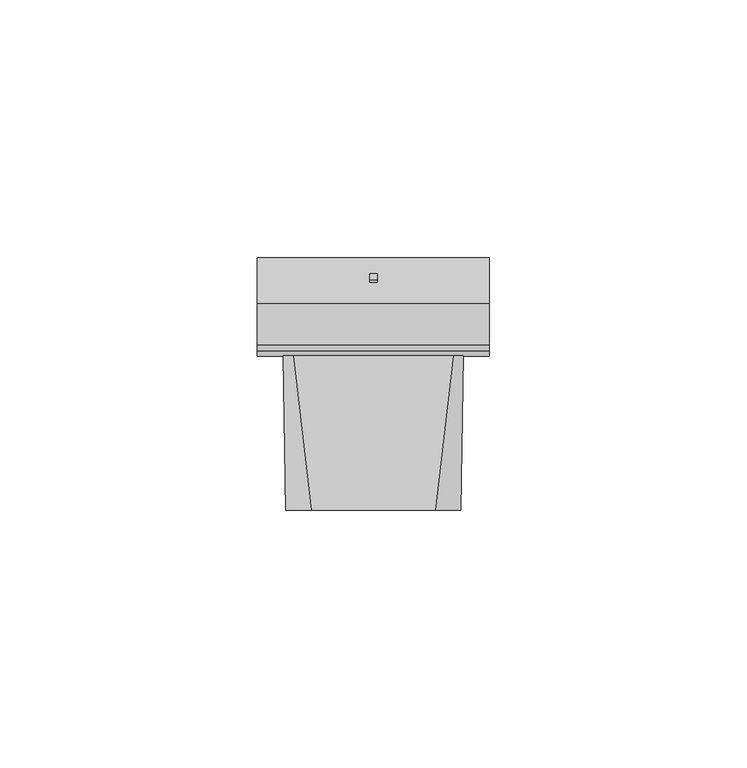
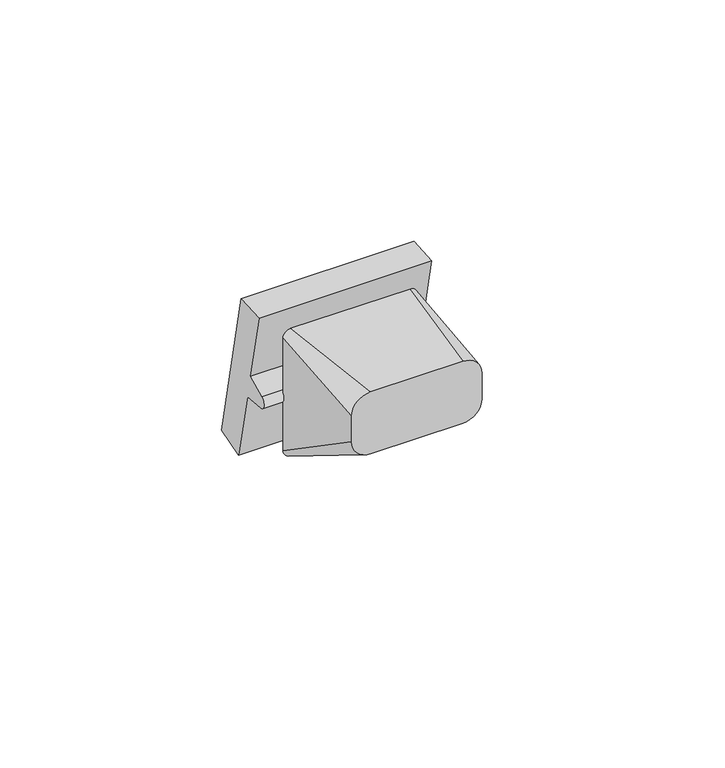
"""IFC4 building model written with IfcOpenShell, lengths in millimetres: proxy geometry, IEK_Skandy_Механизм выключателя : В1 И_SK-V07B."""

from ifc_helpers import new_model, si_unit, point, frame, frame_2d, origin, place, context, project, spatial, polyline, circle_curve, trimmed, segment, composite_curve, outline, extrude, source, transform, mapped, element, save
from ifc_brep_helpers import plane_surface, spline_surface, advanced_brep


def electrical_fixtures_40101430(model_context):
    return source(origin(), model_context, "Body", "SolidModel", [
        extrude(outline(polyline([(0.0, -1.473521), (0.0, 0.0), (0.5, 0.0), (0.5, -1.473521), (0.0, -1.473521)])), frame((0.7367605, 16.0122945, -2.7261846), z_axis=(0.0, -0.20968772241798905, 0.9777684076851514), x_axis=(0.0, -0.9777684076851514, -0.20968772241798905)), (0.0, 0.0, 1.0), 5.9708694),
        extrude(outline(composite_curve([segment(polyline([(19.1247035, -19.6237652), (11.4236286, -21.8320129), (7.3756597, -3.3748404), (1.5972872, -2.8692983)]), True, "CONTINUOUS"), segment(trimmed(circle_curve(frame_2d((1.7530049, -1.0894363)), 1.7866608), [point((1.5972872, -2.8692983))], [point((0.9979294, 0.5298284))], False, "CARTESIAN"), True, "CONTINUOUS"), segment(polyline([(0.9979294, 0.5298284), (6.2549179, 2.9812023), (2.206949, 21.4383748), (10.1988574, 21.9972235), (19.1247035, -19.6237652)]), True, "CONTINUOUS")], self_intersect=False)), frame((-22.5, 0.0, 0.0), z_axis=(1.0, 0.0, 0.0), x_axis=(0.0, 1.0, 0.0)), (0.0, 0.0, 1.0), 45.0),
        advanced_brep(
        [(-12.0, -30.0, 17.0), (-17.0, -30.0, 12.0), (-17.0, -30.0, 5.0), (-12.0, -30.0, 0.0), (12.0, -30.0, 0.0), (17.0, -30.0, 5.0), (17.0, -30.0, 12.0), (12.0, -30.0, 17.0), (-15.5, 0.0, 17.5), (15.5, 0.0, 17.5), (17.5, 0.0, 15.5), (17.5, 0.0, -15.5), (15.5, 0.0, -17.5), (-15.5, 0.0, -17.5), (-17.5, 0.0, -15.5), (-17.5, 0.0, 15.5)],
        [
            (0, 1, circle_curve(frame((-12.0, -30.0, 12.0), z_axis=(0.0, -1.0, 0.0), x_axis=(1.0, 0.0, 0.0)), 5.0)),
            (1, 2),
            (2, 3, circle_curve(frame((-12.0, -30.0, 5.0), z_axis=(0.0, -1.0, 0.0), x_axis=(1.0, 0.0, 0.0)), 5.0)),
            (3, 4),
            (4, 5, circle_curve(frame((12.0, -30.0, 5.0), z_axis=(0.0, -1.0, 0.0), x_axis=(1.0, 0.0, 0.0)), 5.0)),
            (5, 6),
            (6, 7, circle_curve(frame((12.0, -30.0, 12.0), z_axis=(0.0, -1.0, 0.0), x_axis=(1.0, 0.0, 0.0)), 5.0)),
            (7, 0),
            (8, 9),
            (9, 10, circle_curve(frame((15.5, 0.0, 15.5), z_axis=(0.0, 1.0, 0.0), x_axis=(1.0, 0.0, 0.0)), 2.0)),
            (10, 11),
            (11, 12, circle_curve(frame((15.5, 0.0, -15.5), z_axis=(0.0, 1.0, 0.0), x_axis=(1.0, 0.0, 0.0)), 2.0)),
            (12, 13),
            (13, 14, circle_curve(frame((-15.5, 0.0, -15.5), z_axis=(0.0, 1.0, 0.0), x_axis=(1.0, 0.0, 0.0)), 2.0)),
            (14, 15),
            (15, 8, circle_curve(frame((-15.5, 0.0, 15.5), z_axis=(0.0, 1.0, 0.0), x_axis=(1.0, 0.0, 0.0)), 2.0)),
            (8, 0),
            (7, 9),
            (6, 10),
            (5, 11),
            (4, 12),
            (3, 13),
            (2, 14),
            (1, 15),
        ],
        [
            plane_surface(frame((0.0, -30.0, 8.5), z_axis=(0.0, -1.0, 0.0), x_axis=(-1.0, 0.0, 0.0))),
            plane_surface(frame((0.0, 0.0, 0.0), z_axis=(0.0, 1.0, 0.0), x_axis=(-1.0, 0.0, 0.0))),
            plane_surface(frame((0.0, 0.0, 17.5), z_axis=(0.0, -0.016664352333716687, 0.9998611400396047), x_axis=(-1.0, 0.0, 0.0))),
            spline_surface(2, 1, [[(17.5, 0.0, 15.5), (17.0, -30.0, 12.0)], [(17.5, 0.0, 17.5), (17.0, -30.0, 17.0)], [(15.5, 0.0, 17.5), (12.0, -30.0, 17.0)]], [3, 3], [2, 2], [0.0, 1.0], [0.0, 1.0], weights=[[1.0, 1.0], [0.7071067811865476, 0.7071067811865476], [1.0, 1.0]]),
            plane_surface(frame((17.5, 0.0, 0.0), z_axis=(0.9998611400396, -0.016664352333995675, 0.0), x_axis=(0.0, 0.0, 1.0))),
            spline_surface(2, 1, [[(15.5, 0.0, -17.5), (12.0, -30.0, 0.0)], [(17.5, 0.0, -17.5), (17.0, -30.0, 0.0)], [(17.5, 0.0, -15.5), (17.0, -30.0, 5.0)]], [3, 3], [2, 2], [0.0, 1.0], [0.0, 1.0], weights=[[1.0, 1.0], [0.7071067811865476, 0.7071067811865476], [1.0, 1.0]]),
            plane_surface(frame((0.0, 0.0, -17.5), z_axis=(0.0, -0.5038710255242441, -0.8637789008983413), x_axis=(1.0, 0.0, 0.0))),
            spline_surface(2, 1, [[(-17.5, 0.0, -15.5), (-17.0, -30.0, 5.0)], [(-17.5, 0.0, -17.5), (-17.0, -30.0, 0.0)], [(-15.5, 0.0, -17.5), (-12.0, -30.0, 0.0)]], [3, 3], [2, 2], [0.0, 1.0], [0.0, 1.0], weights=[[1.0, 1.0], [0.7071067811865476, 0.7071067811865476], [1.0, 1.0]]),
            plane_surface(frame((-17.5, 0.0, 0.0), z_axis=(-0.9998611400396, -0.01666435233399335, 0.0), x_axis=(0.0, 0.0, -1.0))),
            spline_surface(2, 1, [[(-15.5, 0.0, 17.5), (-12.0, -30.0, 17.0)], [(-17.5, 0.0, 17.5), (-17.0, -30.0, 17.0)], [(-17.5, 0.0, 15.5), (-17.0, -30.0, 12.0)]], [3, 3], [2, 2], [0.0, 1.0], [0.0, 1.0], weights=[[1.0, 1.0], [0.7071067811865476, 0.7071067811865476], [1.0, 1.0]]),
        ],
        [
            (0, [[1, 2, 3, 4, 5, 6, 7, 8]]),
            (1, [[9, 10, 11, 12, 13, 14, 15, 16]]),
            (2, [[-9, 17, -8, 18]]),
            (3, [[-10, -18, -7, 19]]),
            (4, [[-11, -19, -6, 20]]),
            (5, [[-12, -20, -5, 21]]),
            (6, [[-13, -21, -4, 22]]),
            (7, [[-14, -22, -3, 23]]),
            (8, [[-15, -23, -2, 24]]),
            (9, [[-16, -24, -1, -17]]),
        ],
    ),
    ])


if __name__ == "__main__":
    model = new_model("IFC4")
    model_context = context("Model", 3, world=origin())
    ifc_project = project(units=[si_unit("LENGTHUNIT", "METRE", prefix="MILLI")], contexts=[model_context])
    site = spatial("IfcSite", under=ifc_project)
    building = spatial("IfcBuilding", under=site)
    placement = place(None, origin())
    electrical_fixtures_shape = electrical_fixtures_40101430(model_context)
    element("IfcBuildingElementProxy", 1, Name="IEK_Skandy_Механизм выключателя : В1 И_SK-V07B", ObjectType="IEK_Skandy_Механизм выключателя : В1 И_SK-V07B", at=placement, inside=building, context=model_context, shape_type="MappedRepresentation", body=[
        mapped(electrical_fixtures_shape, transform((0.0, 0.0, 0.0), x_axis=(1.0, 0.0, 0.0), y_axis=(0.0, 1.0, 0.0), z_axis=(0.0, 0.0, 1.0))),
    ])
    save(model, "model.ifc")
